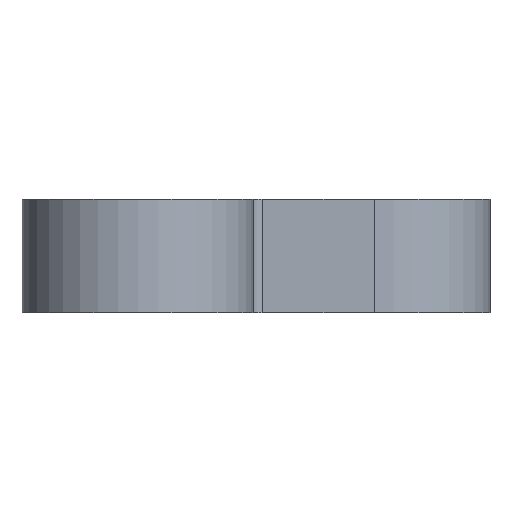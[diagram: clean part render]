
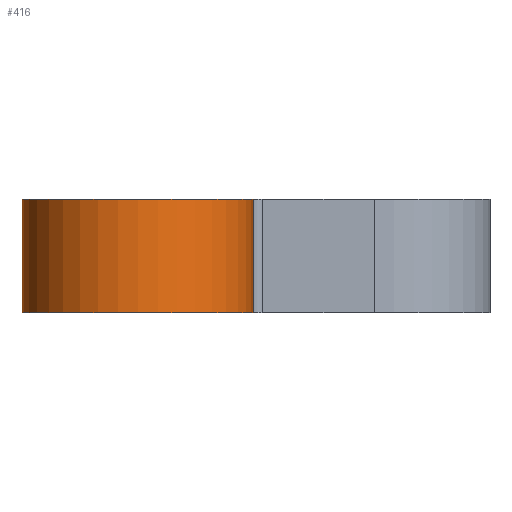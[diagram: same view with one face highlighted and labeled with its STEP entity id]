
A CAD part, front view. The second image highlights one B-rep face of the part: STEP entity #416.
In plain terms, the highlighted cylindrical face has radius 6.2 mm (diameter 12.4 mm), a partial arc.
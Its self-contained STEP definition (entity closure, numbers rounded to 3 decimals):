
#235 = ORIENTED_EDGE ( 'NONE', *, *, #5587, .F. ) ;
#269 = CYLINDRICAL_SURFACE ( 'NONE', #1356, 6.2 ) ;
#365 = CARTESIAN_POINT ( 'NONE',  ( -6.2, -25.4, 1. ) ) ;
#416 = ADVANCED_FACE ( 'NONE', ( #1758 ), #269, .T. ) ;
#971 = ORIENTED_EDGE ( 'NONE', *, *, #3201, .F. ) ;
#1143 = DIRECTION ( 'NONE',  ( 0., 0., -1. ) ) ;
#1356 = AXIS2_PLACEMENT_3D ( 'NONE', #4221, #2254, #2184 ) ;
#1502 = VERTEX_POINT ( 'NONE', #5166 ) ;
#1548 = DIRECTION ( 'NONE',  ( 0., 0., 1. ) ) ;
#1583 = VECTOR ( 'NONE', #2414, 1000. ) ;
#1645 = DIRECTION ( 'NONE',  ( 1., 0., 0. ) ) ;
#1758 = FACE_OUTER_BOUND ( 'NONE', #6139, .T. ) ;
#1921 = AXIS2_PLACEMENT_3D ( 'NONE', #2543, #3589, #5994 ) ;
#2012 = VERTEX_POINT ( 'NONE', #6156 ) ;
#2184 = DIRECTION ( 'NONE',  ( -1., 0., 0. ) ) ;
#2254 = DIRECTION ( 'NONE',  ( 0., 0., -1. ) ) ;
#2414 = DIRECTION ( 'NONE',  ( 0., 0., -1. ) ) ;
#2543 = CARTESIAN_POINT ( 'NONE',  ( 0., -25.4, 3.05 ) ) ;
#2588 = CARTESIAN_POINT ( 'NONE',  ( 0., -25.4, -3.05 ) ) ;
#2637 = CIRCLE ( 'NONE', #6277, 6.2 ) ;
#2672 = LINE ( 'NONE', #2740, #3468 ) ;
#2740 = CARTESIAN_POINT ( 'NONE',  ( 6.2, -25.4, 1. ) ) ;
#2965 = EDGE_CURVE ( 'NONE', #1502, #4671, #5383, .T. ) ;
#3201 = EDGE_CURVE ( 'NONE', #3386, #2012, #2672, .T. ) ;
#3380 = CARTESIAN_POINT ( 'NONE',  ( -6.2, -25.4, -3.05 ) ) ;
#3386 = VERTEX_POINT ( 'NONE', #6248 ) ;
#3468 = VECTOR ( 'NONE', #1143, 1000. ) ;
#3589 = DIRECTION ( 'NONE',  ( 0., 0., 1. ) ) ;
#4221 = CARTESIAN_POINT ( 'NONE',  ( 0., -25.4, 1. ) ) ;
#4671 = VERTEX_POINT ( 'NONE', #3380 ) ;
#4727 = ORIENTED_EDGE ( 'NONE', *, *, #2965, .T. ) ;
#4794 = EDGE_CURVE ( 'NONE', #4671, #2012, #2637, .T. ) ;
#4908 = ORIENTED_EDGE ( 'NONE', *, *, #4794, .T. ) ;
#4947 = CIRCLE ( 'NONE', #1921, 6.2 ) ;
#5166 = CARTESIAN_POINT ( 'NONE',  ( -6.2, -25.4, 3.05 ) ) ;
#5383 = LINE ( 'NONE', #365, #1583 ) ;
#5587 = EDGE_CURVE ( 'NONE', #1502, #3386, #4947, .T. ) ;
#5994 = DIRECTION ( 'NONE',  ( 1., 0., 0. ) ) ;
#6139 = EDGE_LOOP ( 'NONE', ( #4727, #4908, #971, #235 ) ) ;
#6156 = CARTESIAN_POINT ( 'NONE',  ( 6.2, -25.4, -3.05 ) ) ;
#6248 = CARTESIAN_POINT ( 'NONE',  ( 6.2, -25.4, 3.05 ) ) ;
#6277 = AXIS2_PLACEMENT_3D ( 'NONE', #2588, #1548, #1645 ) ;
